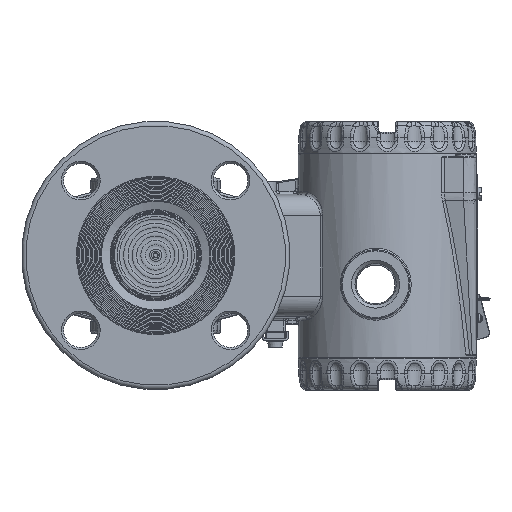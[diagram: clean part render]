
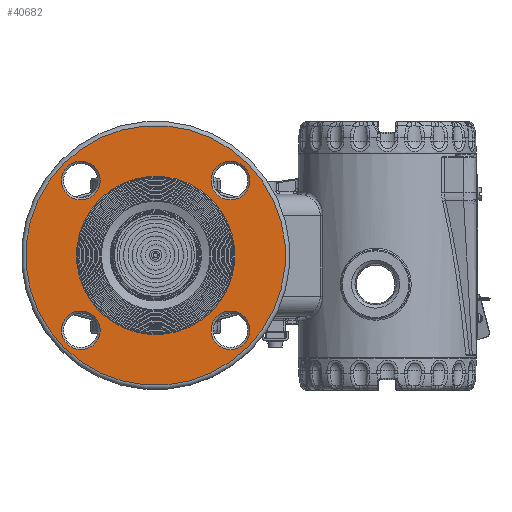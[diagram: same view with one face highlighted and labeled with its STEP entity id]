
A CAD part, top view. The second image highlights one B-rep face of the part: STEP entity #40682.
In plain terms, the highlighted planar face has unit normal (0, 0, 1).
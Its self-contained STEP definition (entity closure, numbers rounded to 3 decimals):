
#685=FACE_BOUND('',#6747,.T.);
#686=FACE_BOUND('',#6748,.T.);
#687=FACE_BOUND('',#6749,.T.);
#688=FACE_BOUND('',#6750,.T.);
#689=FACE_BOUND('',#6751,.T.);
#2639=PLANE('',#45264);
#4037=FACE_OUTER_BOUND('',#6746,.T.);
#6746=EDGE_LOOP('',(#31134));
#6747=EDGE_LOOP('',(#31135));
#6748=EDGE_LOOP('',(#31136));
#6749=EDGE_LOOP('',(#31137));
#6750=EDGE_LOOP('',(#31138));
#6751=EDGE_LOOP('',(#31139,#31140));
#13433=CIRCLE('',#45259,36.9);
#13437=CIRCLE('',#45263,36.9);
#13438=CIRCLE('',#45265,60.5);
#13439=CIRCLE('',#45266,9.);
#13440=CIRCLE('',#45267,9.);
#13441=CIRCLE('',#45268,9.);
#13442=CIRCLE('',#45269,9.);
#17847=VERTEX_POINT('',#72047);
#17848=VERTEX_POINT('',#72048);
#17851=VERTEX_POINT('',#72057);
#17852=VERTEX_POINT('',#72059);
#17853=VERTEX_POINT('',#72061);
#17854=VERTEX_POINT('',#72063);
#17855=VERTEX_POINT('',#72065);
#22555=EDGE_CURVE('',#17847,#17848,#13433,.T.);
#22559=EDGE_CURVE('',#17848,#17847,#13437,.T.);
#22560=EDGE_CURVE('',#17851,#17851,#13438,.T.);
#22561=EDGE_CURVE('',#17852,#17852,#13439,.T.);
#22562=EDGE_CURVE('',#17853,#17853,#13440,.T.);
#22563=EDGE_CURVE('',#17854,#17854,#13441,.T.);
#22564=EDGE_CURVE('',#17855,#17855,#13442,.T.);
#31134=ORIENTED_EDGE('',*,*,#22560,.F.);
#31135=ORIENTED_EDGE('',*,*,#22561,.F.);
#31136=ORIENTED_EDGE('',*,*,#22562,.F.);
#31137=ORIENTED_EDGE('',*,*,#22563,.F.);
#31138=ORIENTED_EDGE('',*,*,#22564,.F.);
#31139=ORIENTED_EDGE('',*,*,#22555,.F.);
#31140=ORIENTED_EDGE('',*,*,#22559,.F.);
#40682=ADVANCED_FACE('',(#4037,#685,#686,#687,#688,#689),#2639,.T.);
#45259=AXIS2_PLACEMENT_3D('',#72049,#53370,#53371);
#45263=AXIS2_PLACEMENT_3D('',#72055,#53378,#53379);
#45264=AXIS2_PLACEMENT_3D('',#72056,#53380,#53381);
#45265=AXIS2_PLACEMENT_3D('',#72058,#53382,#53383);
#45266=AXIS2_PLACEMENT_3D('',#72060,#53384,#53385);
#45267=AXIS2_PLACEMENT_3D('',#72062,#53386,#53387);
#45268=AXIS2_PLACEMENT_3D('',#72064,#53388,#53389);
#45269=AXIS2_PLACEMENT_3D('',#72066,#53390,#53391);
#53370=DIRECTION('center_axis',(0.,0.,1.));
#53371=DIRECTION('ref_axis',(-1.,0.,0.));
#53378=DIRECTION('center_axis',(0.,0.,1.));
#53379=DIRECTION('ref_axis',(-1.,0.,0.));
#53380=DIRECTION('center_axis',(0.,0.,1.));
#53381=DIRECTION('ref_axis',(1.,0.,0.));
#53382=DIRECTION('center_axis',(0.,0.,-1.));
#53383=DIRECTION('ref_axis',(-1.,0.,0.));
#53384=DIRECTION('center_axis',(0.,0.,1.));
#53385=DIRECTION('ref_axis',(-1.,0.,0.));
#53386=DIRECTION('center_axis',(0.,0.,1.));
#53387=DIRECTION('ref_axis',(0.,1.,0.));
#53388=DIRECTION('center_axis',(0.,0.,1.));
#53389=DIRECTION('ref_axis',(1.,0.,0.));
#53390=DIRECTION('center_axis',(0.,0.,1.));
#53391=DIRECTION('ref_axis',(0.,-1.,0.));
#72047=CARTESIAN_POINT('',(36.9,0.,19.));
#72048=CARTESIAN_POINT('',(-36.9,0.,19.));
#72049=CARTESIAN_POINT('Origin',(0.,0.,19.));
#72055=CARTESIAN_POINT('Origin',(0.,0.,19.));
#72056=CARTESIAN_POINT('Origin',(0.,0.,19.));
#72057=CARTESIAN_POINT('',(60.5,0.,19.));
#72058=CARTESIAN_POINT('Origin',(0.,0.,19.));
#72059=CARTESIAN_POINT('',(9.,49.3,19.));
#72060=CARTESIAN_POINT('Origin',(0.,49.3,19.));
#72061=CARTESIAN_POINT('',(49.3,-9.,19.));
#72062=CARTESIAN_POINT('Origin',(49.3,0.,19.));
#72063=CARTESIAN_POINT('',(-9.,-49.3,19.));
#72064=CARTESIAN_POINT('Origin',(0.,-49.3,19.));
#72065=CARTESIAN_POINT('',(-49.3,9.,19.));
#72066=CARTESIAN_POINT('Origin',(-49.3,0.,19.));
